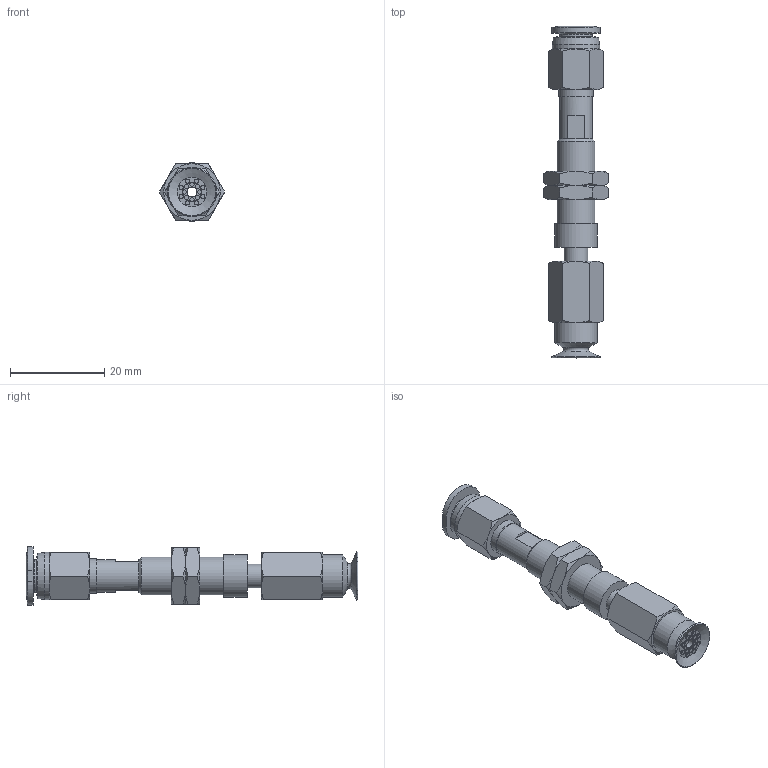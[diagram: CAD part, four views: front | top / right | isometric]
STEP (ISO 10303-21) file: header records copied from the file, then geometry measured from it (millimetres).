
FILE_DESCRIPTION(('STEP AP203'),'1');
FILE_NAME('-O.stp','2025-08-26T08:29:37',(' '),(' '),'Spatial InterOp 3D',' ',' ');
FILE_SCHEMA(('CONFIG_CONTROL_DESIGN'));
Length unit declared in the file: millimetre
Products named in the file (7): BNABPATS-10A-3-※-O; ADAPTER; NAPATS-10A-3--M; NAPATS-10A-3--F; Nut-10A-S; BPAG-10A-※_3D; PC-C_06-M5
Assembly tree (7 placements, depth 2):
  BNABPATS-10A-3-※-O
    ADAPTER
    NAPATS-10A-3--M
    NAPATS-10A-3--F
    Nut-10A-S  x2
    BPAG-10A-※_3D
    PC-C_06-M5
Bounding box: 13.86 x 70.48 x 12.4 mm (x, y, z)
Volume: 3379.2 mm3; surface area: 5053.5 mm2
Topology: 6 solids, 9 shells, 196 faces, 384 edges, 234 vertices
Faces by surface type: plane 74, cone 62, cylinder 41, torus 12, bspline 4, revolution 3
Full cylindrical faces by diameter (mm): 0.9 x16, 2 x3, 4 x4, 4.134 x1, 5 x3, 6 x2, 7 x2, 7.188 x2, 7.4 x1, 8 x1, 8.2 x1, 9 x2, 10 x1
Entity records: 4796 total; most frequent: CARTESIAN_POINT 1278, DIRECTION 679, ORIENTED_EDGE 522, AXIS2_PLACEMENT_3D 318, EDGE_LOOP 278, EDGE_CURVE 263, VERTEX_POINT 197, FACE_OUTER_BOUND 163
